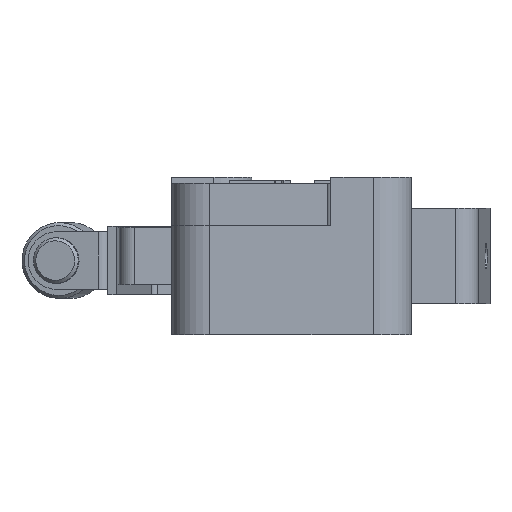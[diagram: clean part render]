
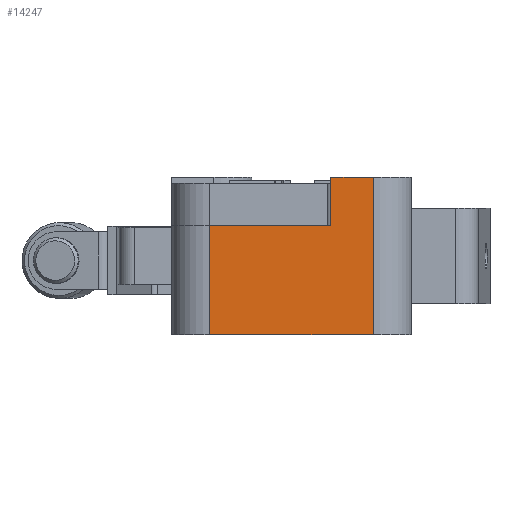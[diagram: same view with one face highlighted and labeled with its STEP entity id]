
A CAD part, left-side view. The second image highlights one B-rep face of the part: STEP entity #14247.
In plain terms, the highlighted planar face has unit normal (-1, 0, 0).
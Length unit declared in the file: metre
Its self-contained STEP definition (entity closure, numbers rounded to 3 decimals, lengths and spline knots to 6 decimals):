
#12482=CARTESIAN_POINT('',(-0.027238,-0.017123,0.033313));
#12483=VERTEX_POINT('',#12482);
#12517=CARTESIAN_POINT('',(-0.027238,-0.014323,0.033313));
#12518=VERTEX_POINT('',#12517);
#12521=CARTESIAN_POINT('',(-0.027238,-0.014323,0.033313));
#12522=DIRECTION('',(0.,-1.,0.));
#12523=VECTOR('',#12522,1.);
#12524=LINE('',#12521,#12523);
#12525=EDGE_CURVE('',#12518,#12483,#12524,.T.);
#12582=CARTESIAN_POINT('',(-0.027238,-0.014323,0.030113));
#12583=VERTEX_POINT('',#12582);
#12586=CARTESIAN_POINT('',(-0.027238,-0.014323,0.033313));
#12587=DIRECTION('',(0.,0.,-1.));
#12588=VECTOR('',#12587,1.);
#12589=LINE('',#12586,#12588);
#12590=EDGE_CURVE('',#12518,#12583,#12589,.T.);
#14192=CARTESIAN_POINT('',(-0.027238,-0.017123,0.022913));
#14193=VERTEX_POINT('',#14192);
#14198=CARTESIAN_POINT('',(-0.027238,-0.017123,0.033313));
#14199=DIRECTION('',(0.,0.,-1.));
#14200=VECTOR('',#14199,1.);
#14201=LINE('',#14198,#14200);
#14202=EDGE_CURVE('',#12483,#14193,#14201,.T.);
#14215=CARTESIAN_POINT('',(-0.027238,-0.014323,0.033313));
#14216=DIRECTION('',(1.,0.,0.));
#14217=DIRECTION('',(0.,1.,0.));
#14218=AXIS2_PLACEMENT_3D('',#14215,#14216,#14217);
#14219=PLANE('',#14218);
#14220=CARTESIAN_POINT('',(-0.027238,-0.014323,0.022913));
#14221=DIRECTION('',(0.,-1.,0.));
#14222=VECTOR('',#14221,1.);
#14223=LINE('',#14220,#14222);
#14224=CARTESIAN_POINT('',(-0.027238,-0.006323,0.022913));
#14225=VERTEX_POINT('',#14224);
#14226=EDGE_CURVE('',#14225,#14193,#14223,.T.);
#14227=ORIENTED_EDGE('',*,*,#14226,.T.);
#14228=ORIENTED_EDGE('',*,*,#14202,.F.);
#14229=ORIENTED_EDGE('',*,*,#12525,.F.);
#14230=ORIENTED_EDGE('',*,*,#12590,.T.);
#14231=CARTESIAN_POINT('',(-0.027238,-0.011723,0.030113));
#14232=DIRECTION('',(0.,-1.,0.));
#14233=VECTOR('',#14232,1.);
#14234=LINE('',#14231,#14233);
#14235=CARTESIAN_POINT('',(-0.027238,-0.006323,0.030113));
#14236=VERTEX_POINT('',#14235);
#14237=EDGE_CURVE('',#14236,#12583,#14234,.T.);
#14238=ORIENTED_EDGE('',*,*,#14237,.F.);
#14239=CARTESIAN_POINT('',(-0.027238,-0.006323,0.030113));
#14240=DIRECTION('',(0.,0.,-1.));
#14241=VECTOR('',#14240,1.);
#14242=LINE('',#14239,#14241);
#14243=EDGE_CURVE('',#14236,#14225,#14242,.T.);
#14244=ORIENTED_EDGE('',*,*,#14243,.T.);
#14245=EDGE_LOOP('',(#14227,#14228,#14229,#14230,#14238,#14244));
#14246=FACE_BOUND('',#14245,.T.);
#14247=ADVANCED_FACE('',(#14246),#14219,.F.);
